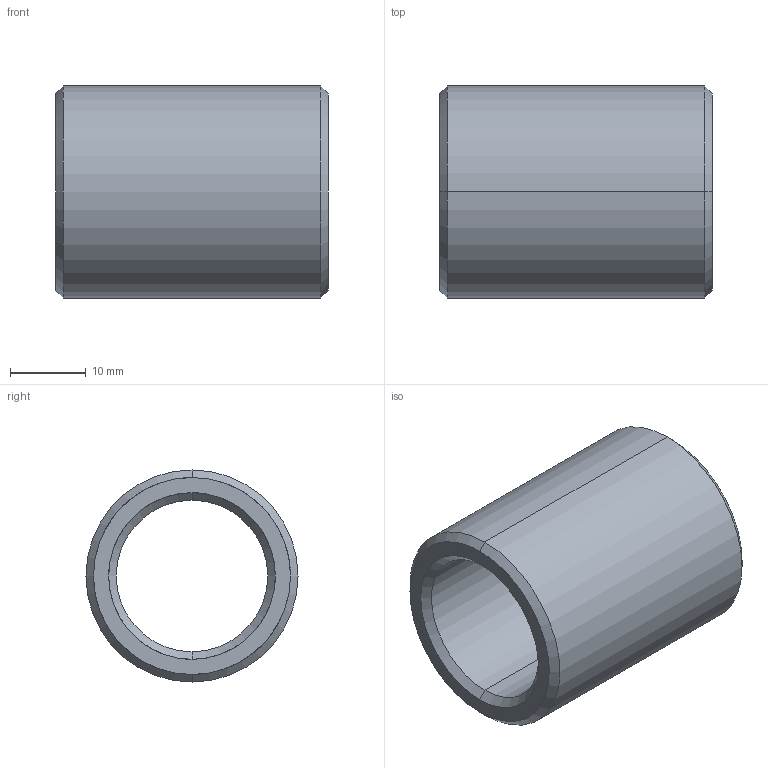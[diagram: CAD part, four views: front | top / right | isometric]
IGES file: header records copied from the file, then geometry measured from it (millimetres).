
Start section: START RECORD GO HERE.
Global section: file name: 352-20X36.igs; native system: DASSAULT SYSTEMES CATIA V5 R20 - www.3ds.com; preprocessor: CATIA Version 5 Release 20 ; author: Utente; organization: NB04-ASUS; date: 20210412.172300; units: millimetre
Bounding box: 36 x 28 x 28 mm (x, y, z)
Surface area: 5864.2 mm2 (no closed solid volume)
Topology: 0 solids, 0 shells, 14 faces, 88 edges, 88 vertices
Faces by surface type: revolution 12, plane 2
